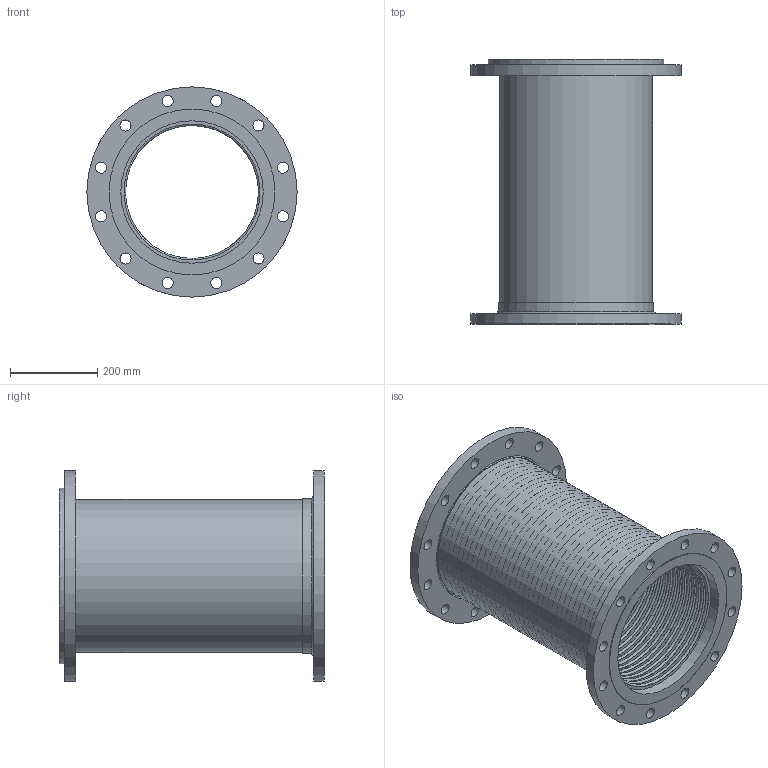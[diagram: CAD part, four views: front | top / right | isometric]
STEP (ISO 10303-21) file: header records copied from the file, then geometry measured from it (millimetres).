
FILE_DESCRIPTION((''),'2;1');
FILE_NAME('C:\2012_Work\Designs\FFLSS\12in_FFLSS_A-30643-2\FFLSS-12x24in.stp','2013-08-26T13:39:20',('KShiels'),(''),'Autodesk Inventor 2012','Autodesk Inventor 2012','');
FILE_SCHEMA(('AUTOMOTIVE_DESIGN { 1 0 10303 214 1 1 1 1 }'));
Length unit declared in the file: inch
Products named in the file (8): FFLSS-12x24in; FFLSS-12x24in_Welds; A-30643-2_12in_FFLSS-BRAID; A-30643-2_12in_FFLSS-BELLOWS; A-30643-2_12in_FFLSS-BRAID-COLLAR; A-30354-2_12in-FIXED-FLANGE; A-30355-1_12in-FLOATING-FLANGE; A-30356-2_12in-WASHER
Assembly tree (8 placements, depth 2):
  FFLSS-12x24in
    FFLSS-12x24in_Welds
    A-30643-2_12in_FFLSS-BRAID
    A-30643-2_12in_FFLSS-BELLOWS
    A-30643-2_12in_FFLSS-BRAID-COLLAR  x2
    A-30354-2_12in-FIXED-FLANGE
    A-30355-1_12in-FLOATING-FLANGE
    A-30356-2_12in-WASHER
Bounding box: 482.6 x 609.6 x 482.6 mm (x, y, z)
Volume: 6360302.5 mm3; surface area: 6189650.1 mm2
Topology: 9 solids, 9 shells, 361 faces, 610 edges, 416 vertices
Faces by surface type: plane 167, torus 152, cylinder 39, bspline 2, cone 1
Full cylindrical faces by diameter (mm): 25.4 x24, 327.025 x2, 350.52 x1, 351.536 x3, 353.917 x4, 361.95 x1, 381 x1, 403.225 x1, 482.6 x2
Entity records: 8418 total; most frequent: CARTESIAN_POINT 1765, DIRECTION 1496, ORIENTED_EDGE 774, EDGE_LOOP 760, AXIS2_PLACEMENT_3D 748, FACE_BOUND 403, EDGE_CURVE 387, VERTEX_POINT 385
